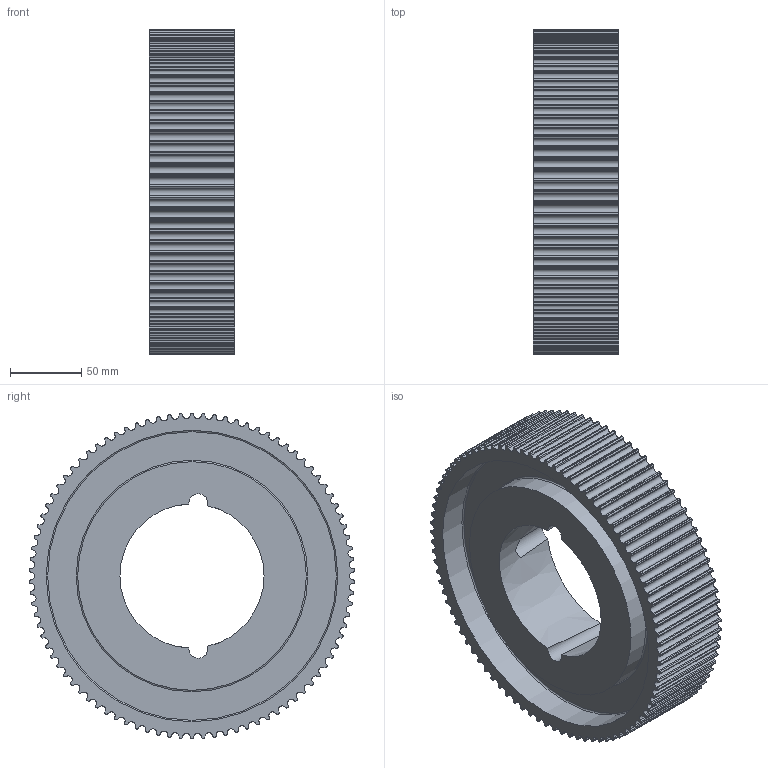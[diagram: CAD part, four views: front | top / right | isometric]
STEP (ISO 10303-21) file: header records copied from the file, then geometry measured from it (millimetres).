
FILE_DESCRIPTION( ( 'STEP AP203' ), '1' );
FILE_NAME( 'C:/Users/Stangenbergd/Documents/CAD_Step/1/17477445.stp', '2020-09-13T18:00:11', ( 'License CC BY-ND 4.0' ), ( 'CADENAS' ), ' ', 'PARTsolutions', ' ' );
FILE_SCHEMA( ( 'CONFIG_CONTROL_DESIGN' ) );
Length unit declared in the file: millimetre
Products named in the file (1): _17477445
Bounding box: 60 x 227.68 x 227.81 mm (x, y, z)
Volume: 1226137.4 mm3; surface area: 182658.1 mm2
Topology: 1 solids, 1 shells, 560 faces, 1658 edges, 1104 vertices
Faces by surface type: cylinder 367, plane 186, torus 4, cone 3
Full cylindrical faces by diameter (mm): 160 x2, 204 x2
Entity records: 19096 total; most frequent: DIRECTION 3508, CARTESIAN_POINT 3364, ORIENTED_EDGE 3300, EDGE_CURVE 1650, AXIS2_PLACEMENT_3D 1304, VERTEX_POINT 1104, LINE 900, VECTOR 900
